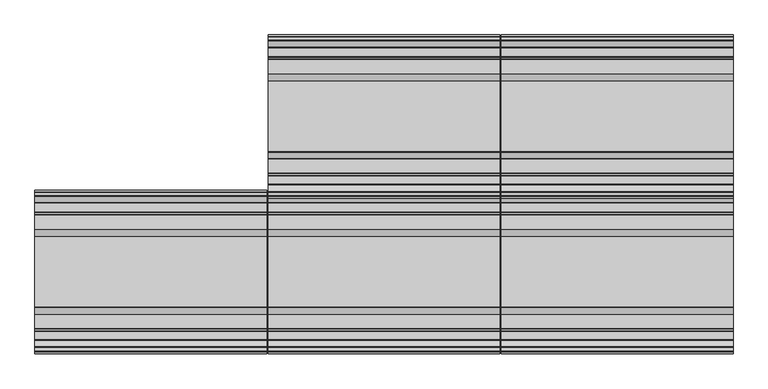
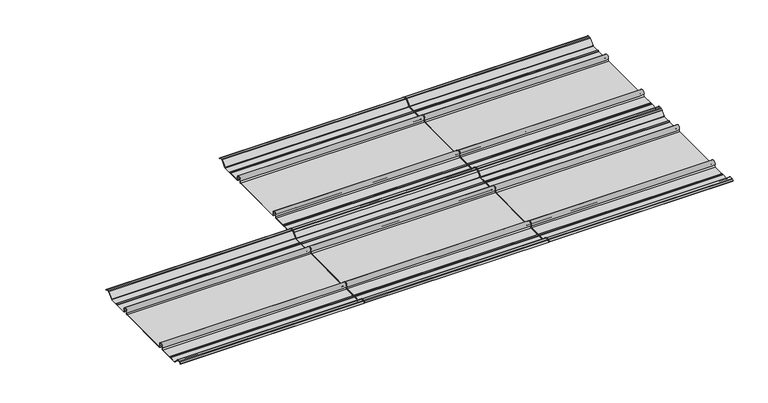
"""IFC4 building model written with IfcOpenShell, lengths in millimetres: proxy geometry, Xlath : Xlath."""

from ifc_helpers import new_model, si_unit, point, frame, frame_2d, origin, place, context, project, spatial, polyline, circle_curve, trimmed, segment, composite_curve, outline, extrude, source, transform, mapped, element, save


def generic_models_ea562b08(model_context):
    return source(origin(), model_context, "Body", "SweptSolid", [
        extrude(outline(composite_curve([segment(polyline([(-2036.021536, 17.692427), (-2032.0, 13.8209287), (-2032.5628134, 13.2581153), (-2036.8173305, 17.3539026)]), True, "CONTINUOUS"), segment(trimmed(circle_curve(frame_2d((-2038.6934261, 15.4051)), 2.7051), [point((-2036.8173305, 17.3539026))], [point((-2038.6934261, 18.1102))], True, "CARTESIAN"), True, "CONTINUOUS"), segment(polyline([(-2038.6934261, 18.1102), (-2045.8817457, 18.1102)]), True, "CONTINUOUS"), segment(trimmed(circle_curve(frame_2d((-2045.8817457, 15.4051)), 2.7051), [point((-2045.8817457, 18.1102))], [point((-2047.8059623, 17.3064039))], True, "CARTESIAN"), True, "CONTINUOUS"), segment(polyline([(-2047.8059623, 17.3064039), (-2063.9741011, 0.9434226)]), True, "CONTINUOUS"), segment(trimmed(circle_curve(frame_2d((-2066.2325712, 3.175)), 3.175), [point((-2063.9741011, 0.9434226))], [point((-2066.2325712, 0.0))], False, "CARTESIAN"), True, "CONTINUOUS"), segment(polyline([(-2066.2325712, 0.0), (-2089.3486405, 0.0)]), True, "CONTINUOUS"), segment(trimmed(circle_curve(frame_2d((-2089.3486405, 3.175)), 3.175), [point((-2089.3486405, 0.0))], [point((-2091.3419174, 0.70367))], False, "CARTESIAN"), True, "CONTINUOUS"), segment(trimmed(circle_curve(frame_2d((-2093.3351943, -1.7676601)), 3.175), [point((-2091.3419174, 0.70367))], [point((-2095.3284712, 0.70367))], True, "CARTESIAN"), True, "CONTINUOUS"), segment(trimmed(circle_curve(frame_2d((-2097.3217481, 3.175)), 3.175), [point((-2095.3284712, 0.70367))], [point((-2097.3217481, 0.0))], False, "CARTESIAN"), True, "CONTINUOUS"), segment(polyline([(-2097.3217481, 0.0), (-2134.59972, 0.0)]), True, "CONTINUOUS"), segment(trimmed(circle_curve(frame_2d((-2134.59972, 3.3362305)), 3.3362305), [point((-2134.59972, 0.0))], [point((-2137.2911698, 5.3076593))], False, "CARTESIAN"), True, "CONTINUOUS"), segment(trimmed(circle_curve(frame_2d((-2143.8031627, 10.0775533)), 8.0720469), [point((-2137.2911698, 5.3076593))], [point((-2150.3151555, 5.3076593))], True, "CARTESIAN"), True, "CONTINUOUS"), segment(trimmed(circle_curve(frame_2d((-2153.0066054, 3.3362305)), 3.3362305), [point((-2150.3151555, 5.3076593))], [point((-2153.0066054, 0.0))], False, "CARTESIAN"), True, "CONTINUOUS"), segment(polyline([(-2153.0066054, 0.0), (-2338.0308946, 0.0)]), True, "CONTINUOUS"), segment(trimmed(circle_curve(frame_2d((-2338.0308946, 3.3362305)), 3.3362305), [point((-2338.0308946, 0.0))], [point((-2340.7223445, 5.3076593))], False, "CARTESIAN"), True, "CONTINUOUS"), segment(trimmed(circle_curve(frame_2d((-2347.2343373, 10.0775533)), 8.0720469), [point((-2340.7223445, 5.3076593))], [point((-2353.7463302, 5.3076593))], True, "CARTESIAN"), True, "CONTINUOUS"), segment(trimmed(circle_curve(frame_2d((-2356.43778, 3.3362305)), 3.3362305), [point((-2353.7463302, 5.3076593))], [point((-2356.43778, 0.0))], False, "CARTESIAN"), True, "CONTINUOUS"), segment(polyline([(-2356.43778, 0.0), (-2393.7157519, 0.0)]), True, "CONTINUOUS"), segment(trimmed(circle_curve(frame_2d((-2393.7157519, 3.175)), 3.175), [point((-2393.7157519, 0.0))], [point((-2395.7090288, 0.70367))], False, "CARTESIAN"), True, "CONTINUOUS"), segment(trimmed(circle_curve(frame_2d((-2397.7023057, -1.7676601)), 3.175), [point((-2395.7090288, 0.70367))], [point((-2399.6955826, 0.70367))], True, "CARTESIAN"), True, "CONTINUOUS"), segment(trimmed(circle_curve(frame_2d((-2401.6888595, 3.175)), 3.175), [point((-2399.6955826, 0.70367))], [point((-2401.6888595, 0.0))], False, "CARTESIAN"), True, "CONTINUOUS"), segment(polyline([(-2401.6888595, 0.0), (-2423.0183557, 0.0)]), True, "CONTINUOUS"), segment(trimmed(circle_curve(frame_2d((-2423.0183557, 3.175)), 3.175), [point((-2423.0183557, 0.0))], [point((-2425.2768259, 0.9434226))], False, "CARTESIAN"), True, "CONTINUOUS"), segment(polyline([(-2425.2768259, 0.9434226), (-2441.9092693, 17.7763039)]), True, "CONTINUOUS"), segment(trimmed(circle_curve(frame_2d((-2443.8334859, 15.875)), 2.7051), [point((-2441.9092693, 17.7763039))], [point((-2443.8334859, 18.5801))], True, "CARTESIAN"), True, "CONTINUOUS"), segment(polyline([(-2443.8334859, 18.5801), (-2452.3440739, 18.5801)]), True, "CONTINUOUS"), segment(trimmed(circle_curve(frame_2d((-2452.3440739, 15.875)), 2.7051), [point((-2452.3440739, 18.5801))], [point((-2454.2201695, 17.8238026))], True, "CARTESIAN"), True, "CONTINUOUS"), segment(polyline([(-2454.2201695, 17.8238026), (-2458.4855845, 13.717524), (-2459.0483979, 14.2803374), (-2455.015964, 18.162327)]), True, "CONTINUOUS"), segment(trimmed(circle_curve(frame_2d((-2452.8139739, 15.875)), 3.175), [point((-2455.015964, 18.162327))], [point((-2452.8139739, 19.05))], False, "CARTESIAN"), True, "CONTINUOUS"), segment(polyline([(-2452.8139739, 19.05), (-2443.8334859, 19.05)]), True, "CONTINUOUS"), segment(trimmed(circle_curve(frame_2d((-2443.8334859, 15.875)), 3.175), [point((-2443.8334859, 19.05))], [point((-2441.5750157, 18.1065774))], False, "CARTESIAN"), True, "CONTINUOUS"), segment(polyline([(-2441.5750157, 18.1065774), (-2424.9425723, 1.2736961)]), True, "CONTINUOUS"), segment(trimmed(circle_curve(frame_2d((-2423.0183557, 3.175)), 2.7051), [point((-2424.9425723, 1.2736961))], [point((-2423.0183557, 0.4699))], True, "CARTESIAN"), True, "CONTINUOUS"), segment(polyline([(-2423.0183557, 0.4699), (-2401.8514296, 0.4699)]), True, "CONTINUOUS"), segment(trimmed(circle_curve(frame_2d((-2401.8514296, 3.6449)), 3.175), [point((-2401.8514296, 0.4699))], [point((-2399.9198077, 1.1250862))], True, "CARTESIAN"), True, "CONTINUOUS"), segment(trimmed(circle_curve(frame_2d((-2397.7023057, -1.7676601)), 3.6449), [point((-2399.9198077, 1.1250862))], [point((-2395.4848037, 1.1250862))], False, "CARTESIAN"), True, "CONTINUOUS"), segment(trimmed(circle_curve(frame_2d((-2393.5531818, 3.6449)), 3.175), [point((-2395.4848037, 1.1250862))], [point((-2393.5531818, 0.4699))], True, "CARTESIAN"), True, "CONTINUOUS"), segment(polyline([(-2393.5531818, 0.4699), (-2356.43778, 0.4699)]), True, "CONTINUOUS"), segment(trimmed(circle_curve(frame_2d((-2356.43778, 3.3362305)), 2.8663305), [point((-2356.43778, 0.4699))], [point((-2354.1254144, 5.0299883))], True, "CARTESIAN"), True, "CONTINUOUS"), segment(trimmed(circle_curve(frame_2d((-2347.2343373, 10.0775533)), 8.5419469), [point((-2354.1254144, 5.0299883))], [point((-2340.3432603, 5.0299883))], False, "CARTESIAN"), True, "CONTINUOUS"), segment(trimmed(circle_curve(frame_2d((-2338.0308946, 3.3362305)), 2.8663305), [point((-2340.3432603, 5.0299883))], [point((-2338.0308946, 0.4699))], True, "CARTESIAN"), True, "CONTINUOUS"), segment(polyline([(-2338.0308946, 0.4699), (-2153.0066054, 0.4699)]), True, "CONTINUOUS"), segment(trimmed(circle_curve(frame_2d((-2153.0066054, 3.3362305)), 2.8663305), [point((-2153.0066054, 0.4699))], [point((-2150.6942397, 5.0299883))], True, "CARTESIAN"), True, "CONTINUOUS"), segment(trimmed(circle_curve(frame_2d((-2143.8031627, 10.0775533)), 8.5419469), [point((-2150.6942397, 5.0299883))], [point((-2136.9120856, 5.0299883))], False, "CARTESIAN"), True, "CONTINUOUS"), segment(trimmed(circle_curve(frame_2d((-2134.59972, 3.3362305)), 2.8663305), [point((-2136.9120856, 5.0299883))], [point((-2134.59972, 0.4699))], True, "CARTESIAN"), True, "CONTINUOUS"), segment(polyline([(-2134.59972, 0.4699), (-2097.4843182, 0.4699)]), True, "CONTINUOUS"), segment(trimmed(circle_curve(frame_2d((-2097.4843182, 3.6449)), 3.175), [point((-2097.4843182, 0.4699))], [point((-2095.5526963, 1.1250862))], True, "CARTESIAN"), True, "CONTINUOUS"), segment(trimmed(circle_curve(frame_2d((-2093.3351943, -1.7676601)), 3.6449), [point((-2095.5526963, 1.1250862))], [point((-2091.1176923, 1.1250862))], False, "CARTESIAN"), True, "CONTINUOUS"), segment(trimmed(circle_curve(frame_2d((-2089.1860704, 3.6449)), 3.175), [point((-2091.1176923, 1.1250862))], [point((-2089.1860704, 0.4699))], True, "CARTESIAN"), True, "CONTINUOUS"), segment(polyline([(-2089.1860704, 0.4699), (-2066.2325712, 0.4699)]), True, "CONTINUOUS"), segment(trimmed(circle_curve(frame_2d((-2066.2325712, 3.175)), 2.7051), [point((-2066.2325712, 0.4699))], [point((-2064.3083547, 1.2736961))], True, "CARTESIAN"), True, "CONTINUOUS"), segment(polyline([(-2064.3083547, 1.2736961), (-2048.1402159, 17.6366774)]), True, "CONTINUOUS"), segment(trimmed(circle_curve(frame_2d((-2045.8817457, 15.4051)), 3.175), [point((-2048.1402159, 17.6366774))], [point((-2045.8817457, 18.5801))], False, "CARTESIAN"), True, "CONTINUOUS"), segment(polyline([(-2045.8817457, 18.5801), (-2038.2235261, 18.5801)]), True, "CONTINUOUS"), segment(trimmed(circle_curve(frame_2d((-2038.2235261, 15.4051)), 3.175), [point((-2038.2235261, 18.5801))], [point((-2036.021536, 17.692427))], False, "CARTESIAN"), True, "CONTINUOUS")], self_intersect=False)), frame((1219.2, 0.0, 0.0), z_axis=(1.0, 0.0, 0.0), x_axis=(0.0, 1.0, 0.0)), (0.0, 0.0, 1.0), 606.425),
        extrude(outline(composite_curve([segment(polyline([(-2036.021536, 17.692427), (-2032.0, 13.8209287), (-2032.5628134, 13.2581153), (-2036.8173305, 17.3539026)]), True, "CONTINUOUS"), segment(trimmed(circle_curve(frame_2d((-2038.6934261, 15.4051)), 2.7051), [point((-2036.8173305, 17.3539026))], [point((-2038.6934261, 18.1102))], True, "CARTESIAN"), True, "CONTINUOUS"), segment(polyline([(-2038.6934261, 18.1102), (-2045.8817457, 18.1102)]), True, "CONTINUOUS"), segment(trimmed(circle_curve(frame_2d((-2045.8817457, 15.4051)), 2.7051), [point((-2045.8817457, 18.1102))], [point((-2047.8059623, 17.3064039))], True, "CARTESIAN"), True, "CONTINUOUS"), segment(polyline([(-2047.8059623, 17.3064039), (-2063.9741011, 0.9434226)]), True, "CONTINUOUS"), segment(trimmed(circle_curve(frame_2d((-2066.2325712, 3.175)), 3.175), [point((-2063.9741011, 0.9434226))], [point((-2066.2325712, 0.0))], False, "CARTESIAN"), True, "CONTINUOUS"), segment(polyline([(-2066.2325712, 0.0), (-2089.3486405, 0.0)]), True, "CONTINUOUS"), segment(trimmed(circle_curve(frame_2d((-2089.3486405, 3.175)), 3.175), [point((-2089.3486405, 0.0))], [point((-2091.3419174, 0.70367))], False, "CARTESIAN"), True, "CONTINUOUS"), segment(trimmed(circle_curve(frame_2d((-2093.3351943, -1.7676601)), 3.175), [point((-2091.3419174, 0.70367))], [point((-2095.3284712, 0.70367))], True, "CARTESIAN"), True, "CONTINUOUS"), segment(trimmed(circle_curve(frame_2d((-2097.3217481, 3.175)), 3.175), [point((-2095.3284712, 0.70367))], [point((-2097.3217481, 0.0))], False, "CARTESIAN"), True, "CONTINUOUS"), segment(polyline([(-2097.3217481, 0.0), (-2134.59972, 0.0)]), True, "CONTINUOUS"), segment(trimmed(circle_curve(frame_2d((-2134.59972, 3.3362305)), 3.3362305), [point((-2134.59972, 0.0))], [point((-2137.2911698, 5.3076593))], False, "CARTESIAN"), True, "CONTINUOUS"), segment(trimmed(circle_curve(frame_2d((-2143.8031627, 10.0775533)), 8.0720469), [point((-2137.2911698, 5.3076593))], [point((-2150.3151555, 5.3076593))], True, "CARTESIAN"), True, "CONTINUOUS"), segment(trimmed(circle_curve(frame_2d((-2153.0066054, 3.3362305)), 3.3362305), [point((-2150.3151555, 5.3076593))], [point((-2153.0066054, 0.0))], False, "CARTESIAN"), True, "CONTINUOUS"), segment(polyline([(-2153.0066054, 0.0), (-2338.0308946, 0.0)]), True, "CONTINUOUS"), segment(trimmed(circle_curve(frame_2d((-2338.0308946, 3.3362305)), 3.3362305), [point((-2338.0308946, 0.0))], [point((-2340.7223445, 5.3076593))], False, "CARTESIAN"), True, "CONTINUOUS"), segment(trimmed(circle_curve(frame_2d((-2347.2343373, 10.0775533)), 8.0720469), [point((-2340.7223445, 5.3076593))], [point((-2353.7463302, 5.3076593))], True, "CARTESIAN"), True, "CONTINUOUS"), segment(trimmed(circle_curve(frame_2d((-2356.43778, 3.3362305)), 3.3362305), [point((-2353.7463302, 5.3076593))], [point((-2356.43778, 0.0))], False, "CARTESIAN"), True, "CONTINUOUS"), segment(polyline([(-2356.43778, 0.0), (-2393.7157519, 0.0)]), True, "CONTINUOUS"), segment(trimmed(circle_curve(frame_2d((-2393.7157519, 3.175)), 3.175), [point((-2393.7157519, 0.0))], [point((-2395.7090288, 0.70367))], False, "CARTESIAN"), True, "CONTINUOUS"), segment(trimmed(circle_curve(frame_2d((-2397.7023057, -1.7676601)), 3.175), [point((-2395.7090288, 0.70367))], [point((-2399.6955826, 0.70367))], True, "CARTESIAN"), True, "CONTINUOUS"), segment(trimmed(circle_curve(frame_2d((-2401.6888595, 3.175)), 3.175), [point((-2399.6955826, 0.70367))], [point((-2401.6888595, 0.0))], False, "CARTESIAN"), True, "CONTINUOUS"), segment(polyline([(-2401.6888595, 0.0), (-2423.0183557, 0.0)]), True, "CONTINUOUS"), segment(trimmed(circle_curve(frame_2d((-2423.0183557, 3.175)), 3.175), [point((-2423.0183557, 0.0))], [point((-2425.2768259, 0.9434226))], False, "CARTESIAN"), True, "CONTINUOUS"), segment(polyline([(-2425.2768259, 0.9434226), (-2441.9092693, 17.7763039)]), True, "CONTINUOUS"), segment(trimmed(circle_curve(frame_2d((-2443.8334859, 15.875)), 2.7051), [point((-2441.9092693, 17.7763039))], [point((-2443.8334859, 18.5801))], True, "CARTESIAN"), True, "CONTINUOUS"), segment(polyline([(-2443.8334859, 18.5801), (-2452.3440739, 18.5801)]), True, "CONTINUOUS"), segment(trimmed(circle_curve(frame_2d((-2452.3440739, 15.875)), 2.7051), [point((-2452.3440739, 18.5801))], [point((-2454.2201695, 17.8238026))], True, "CARTESIAN"), True, "CONTINUOUS"), segment(polyline([(-2454.2201695, 17.8238026), (-2458.4855845, 13.717524), (-2459.0483979, 14.2803374), (-2455.015964, 18.162327)]), True, "CONTINUOUS"), segment(trimmed(circle_curve(frame_2d((-2452.8139739, 15.875)), 3.175), [point((-2455.015964, 18.162327))], [point((-2452.8139739, 19.05))], False, "CARTESIAN"), True, "CONTINUOUS"), segment(polyline([(-2452.8139739, 19.05), (-2443.8334859, 19.05)]), True, "CONTINUOUS"), segment(trimmed(circle_curve(frame_2d((-2443.8334859, 15.875)), 3.175), [point((-2443.8334859, 19.05))], [point((-2441.5750157, 18.1065774))], False, "CARTESIAN"), True, "CONTINUOUS"), segment(polyline([(-2441.5750157, 18.1065774), (-2424.9425723, 1.2736961)]), True, "CONTINUOUS"), segment(trimmed(circle_curve(frame_2d((-2423.0183557, 3.175)), 2.7051), [point((-2424.9425723, 1.2736961))], [point((-2423.0183557, 0.4699))], True, "CARTESIAN"), True, "CONTINUOUS"), segment(polyline([(-2423.0183557, 0.4699), (-2401.8514296, 0.4699)]), True, "CONTINUOUS"), segment(trimmed(circle_curve(frame_2d((-2401.8514296, 3.6449)), 3.175), [point((-2401.8514296, 0.4699))], [point((-2399.9198077, 1.1250862))], True, "CARTESIAN"), True, "CONTINUOUS"), segment(trimmed(circle_curve(frame_2d((-2397.7023057, -1.7676601)), 3.6449), [point((-2399.9198077, 1.1250862))], [point((-2395.4848037, 1.1250862))], False, "CARTESIAN"), True, "CONTINUOUS"), segment(trimmed(circle_curve(frame_2d((-2393.5531818, 3.6449)), 3.175), [point((-2395.4848037, 1.1250862))], [point((-2393.5531818, 0.4699))], True, "CARTESIAN"), True, "CONTINUOUS"), segment(polyline([(-2393.5531818, 0.4699), (-2356.43778, 0.4699)]), True, "CONTINUOUS"), segment(trimmed(circle_curve(frame_2d((-2356.43778, 3.3362305)), 2.8663305), [point((-2356.43778, 0.4699))], [point((-2354.1254144, 5.0299883))], True, "CARTESIAN"), True, "CONTINUOUS"), segment(trimmed(circle_curve(frame_2d((-2347.2343373, 10.0775533)), 8.5419469), [point((-2354.1254144, 5.0299883))], [point((-2340.3432603, 5.0299883))], False, "CARTESIAN"), True, "CONTINUOUS"), segment(trimmed(circle_curve(frame_2d((-2338.0308946, 3.3362305)), 2.8663305), [point((-2340.3432603, 5.0299883))], [point((-2338.0308946, 0.4699))], True, "CARTESIAN"), True, "CONTINUOUS"), segment(polyline([(-2338.0308946, 0.4699), (-2153.0066054, 0.4699)]), True, "CONTINUOUS"), segment(trimmed(circle_curve(frame_2d((-2153.0066054, 3.3362305)), 2.8663305), [point((-2153.0066054, 0.4699))], [point((-2150.6942397, 5.0299883))], True, "CARTESIAN"), True, "CONTINUOUS"), segment(trimmed(circle_curve(frame_2d((-2143.8031627, 10.0775533)), 8.5419469), [point((-2150.6942397, 5.0299883))], [point((-2136.9120856, 5.0299883))], False, "CARTESIAN"), True, "CONTINUOUS"), segment(trimmed(circle_curve(frame_2d((-2134.59972, 3.3362305)), 2.8663305), [point((-2136.9120856, 5.0299883))], [point((-2134.59972, 0.4699))], True, "CARTESIAN"), True, "CONTINUOUS"), segment(polyline([(-2134.59972, 0.4699), (-2097.4843182, 0.4699)]), True, "CONTINUOUS"), segment(trimmed(circle_curve(frame_2d((-2097.4843182, 3.6449)), 3.175), [point((-2097.4843182, 0.4699))], [point((-2095.5526963, 1.1250862))], True, "CARTESIAN"), True, "CONTINUOUS"), segment(trimmed(circle_curve(frame_2d((-2093.3351943, -1.7676601)), 3.6449), [point((-2095.5526963, 1.1250862))], [point((-2091.1176923, 1.1250862))], False, "CARTESIAN"), True, "CONTINUOUS"), segment(trimmed(circle_curve(frame_2d((-2089.1860704, 3.6449)), 3.175), [point((-2091.1176923, 1.1250862))], [point((-2089.1860704, 0.4699))], True, "CARTESIAN"), True, "CONTINUOUS"), segment(polyline([(-2089.1860704, 0.4699), (-2066.2325712, 0.4699)]), True, "CONTINUOUS"), segment(trimmed(circle_curve(frame_2d((-2066.2325712, 3.175)), 2.7051), [point((-2066.2325712, 0.4699))], [point((-2064.3083547, 1.2736961))], True, "CARTESIAN"), True, "CONTINUOUS"), segment(polyline([(-2064.3083547, 1.2736961), (-2048.1402159, 17.6366774)]), True, "CONTINUOUS"), segment(trimmed(circle_curve(frame_2d((-2045.8817457, 15.4051)), 3.175), [point((-2048.1402159, 17.6366774))], [point((-2045.8817457, 18.5801))], False, "CARTESIAN"), True, "CONTINUOUS"), segment(polyline([(-2045.8817457, 18.5801), (-2038.2235261, 18.5801)]), True, "CONTINUOUS"), segment(trimmed(circle_curve(frame_2d((-2038.2235261, 15.4051)), 3.175), [point((-2038.2235261, 18.5801))], [point((-2036.021536, 17.692427))], False, "CARTESIAN"), True, "CONTINUOUS")], self_intersect=False)), frame((609.6, 0.0, 0.0), z_axis=(1.0, 0.0, 0.0), x_axis=(0.0, 1.0, 0.0)), (0.0, 0.0, 1.0), 606.425),
        extrude(outline(composite_curve([segment(polyline([(-2036.021536, 17.692427), (-2032.0, 13.8209287), (-2032.5628134, 13.2581153), (-2036.8173305, 17.3539026)]), True, "CONTINUOUS"), segment(trimmed(circle_curve(frame_2d((-2038.6934261, 15.4051)), 2.7051), [point((-2036.8173305, 17.3539026))], [point((-2038.6934261, 18.1102))], True, "CARTESIAN"), True, "CONTINUOUS"), segment(polyline([(-2038.6934261, 18.1102), (-2045.8817457, 18.1102)]), True, "CONTINUOUS"), segment(trimmed(circle_curve(frame_2d((-2045.8817457, 15.4051)), 2.7051), [point((-2045.8817457, 18.1102))], [point((-2047.8059623, 17.3064039))], True, "CARTESIAN"), True, "CONTINUOUS"), segment(polyline([(-2047.8059623, 17.3064039), (-2063.9741011, 0.9434226)]), True, "CONTINUOUS"), segment(trimmed(circle_curve(frame_2d((-2066.2325712, 3.175)), 3.175), [point((-2063.9741011, 0.9434226))], [point((-2066.2325712, 0.0))], False, "CARTESIAN"), True, "CONTINUOUS"), segment(polyline([(-2066.2325712, 0.0), (-2089.3486405, 0.0)]), True, "CONTINUOUS"), segment(trimmed(circle_curve(frame_2d((-2089.3486405, 3.175)), 3.175), [point((-2089.3486405, 0.0))], [point((-2091.3419174, 0.70367))], False, "CARTESIAN"), True, "CONTINUOUS"), segment(trimmed(circle_curve(frame_2d((-2093.3351943, -1.7676601)), 3.175), [point((-2091.3419174, 0.70367))], [point((-2095.3284712, 0.70367))], True, "CARTESIAN"), True, "CONTINUOUS"), segment(trimmed(circle_curve(frame_2d((-2097.3217481, 3.175)), 3.175), [point((-2095.3284712, 0.70367))], [point((-2097.3217481, 0.0))], False, "CARTESIAN"), True, "CONTINUOUS"), segment(polyline([(-2097.3217481, 0.0), (-2134.59972, 0.0)]), True, "CONTINUOUS"), segment(trimmed(circle_curve(frame_2d((-2134.59972, 3.3362305)), 3.3362305), [point((-2134.59972, 0.0))], [point((-2137.2911698, 5.3076593))], False, "CARTESIAN"), True, "CONTINUOUS"), segment(trimmed(circle_curve(frame_2d((-2143.8031627, 10.0775533)), 8.0720469), [point((-2137.2911698, 5.3076593))], [point((-2150.3151555, 5.3076593))], True, "CARTESIAN"), True, "CONTINUOUS"), segment(trimmed(circle_curve(frame_2d((-2153.0066054, 3.3362305)), 3.3362305), [point((-2150.3151555, 5.3076593))], [point((-2153.0066054, 0.0))], False, "CARTESIAN"), True, "CONTINUOUS"), segment(polyline([(-2153.0066054, 0.0), (-2338.0308946, 0.0)]), True, "CONTINUOUS"), segment(trimmed(circle_curve(frame_2d((-2338.0308946, 3.3362305)), 3.3362305), [point((-2338.0308946, 0.0))], [point((-2340.7223445, 5.3076593))], False, "CARTESIAN"), True, "CONTINUOUS"), segment(trimmed(circle_curve(frame_2d((-2347.2343373, 10.0775533)), 8.0720469), [point((-2340.7223445, 5.3076593))], [point((-2353.7463302, 5.3076593))], True, "CARTESIAN"), True, "CONTINUOUS"), segment(trimmed(circle_curve(frame_2d((-2356.43778, 3.3362305)), 3.3362305), [point((-2353.7463302, 5.3076593))], [point((-2356.43778, 0.0))], False, "CARTESIAN"), True, "CONTINUOUS"), segment(polyline([(-2356.43778, 0.0), (-2393.7157519, 0.0)]), True, "CONTINUOUS"), segment(trimmed(circle_curve(frame_2d((-2393.7157519, 3.175)), 3.175), [point((-2393.7157519, 0.0))], [point((-2395.7090288, 0.70367))], False, "CARTESIAN"), True, "CONTINUOUS"), segment(trimmed(circle_curve(frame_2d((-2397.7023057, -1.7676601)), 3.175), [point((-2395.7090288, 0.70367))], [point((-2399.6955826, 0.70367))], True, "CARTESIAN"), True, "CONTINUOUS"), segment(trimmed(circle_curve(frame_2d((-2401.6888595, 3.175)), 3.175), [point((-2399.6955826, 0.70367))], [point((-2401.6888595, 0.0))], False, "CARTESIAN"), True, "CONTINUOUS"), segment(polyline([(-2401.6888595, 0.0), (-2423.0183557, 0.0)]), True, "CONTINUOUS"), segment(trimmed(circle_curve(frame_2d((-2423.0183557, 3.175)), 3.175), [point((-2423.0183557, 0.0))], [point((-2425.2768259, 0.9434226))], False, "CARTESIAN"), True, "CONTINUOUS"), segment(polyline([(-2425.2768259, 0.9434226), (-2441.9092693, 17.7763039)]), True, "CONTINUOUS"), segment(trimmed(circle_curve(frame_2d((-2443.8334859, 15.875)), 2.7051), [point((-2441.9092693, 17.7763039))], [point((-2443.8334859, 18.5801))], True, "CARTESIAN"), True, "CONTINUOUS"), segment(polyline([(-2443.8334859, 18.5801), (-2452.3440739, 18.5801)]), True, "CONTINUOUS"), segment(trimmed(circle_curve(frame_2d((-2452.3440739, 15.875)), 2.7051), [point((-2452.3440739, 18.5801))], [point((-2454.2201695, 17.8238026))], True, "CARTESIAN"), True, "CONTINUOUS"), segment(polyline([(-2454.2201695, 17.8238026), (-2458.4855845, 13.717524), (-2459.0483979, 14.2803374), (-2455.015964, 18.162327)]), True, "CONTINUOUS"), segment(trimmed(circle_curve(frame_2d((-2452.8139739, 15.875)), 3.175), [point((-2455.015964, 18.162327))], [point((-2452.8139739, 19.05))], False, "CARTESIAN"), True, "CONTINUOUS"), segment(polyline([(-2452.8139739, 19.05), (-2443.8334859, 19.05)]), True, "CONTINUOUS"), segment(trimmed(circle_curve(frame_2d((-2443.8334859, 15.875)), 3.175), [point((-2443.8334859, 19.05))], [point((-2441.5750157, 18.1065774))], False, "CARTESIAN"), True, "CONTINUOUS"), segment(polyline([(-2441.5750157, 18.1065774), (-2424.9425723, 1.2736961)]), True, "CONTINUOUS"), segment(trimmed(circle_curve(frame_2d((-2423.0183557, 3.175)), 2.7051), [point((-2424.9425723, 1.2736961))], [point((-2423.0183557, 0.4699))], True, "CARTESIAN"), True, "CONTINUOUS"), segment(polyline([(-2423.0183557, 0.4699), (-2401.8514296, 0.4699)]), True, "CONTINUOUS"), segment(trimmed(circle_curve(frame_2d((-2401.8514296, 3.6449)), 3.175), [point((-2401.8514296, 0.4699))], [point((-2399.9198077, 1.1250862))], True, "CARTESIAN"), True, "CONTINUOUS"), segment(trimmed(circle_curve(frame_2d((-2397.7023057, -1.7676601)), 3.6449), [point((-2399.9198077, 1.1250862))], [point((-2395.4848037, 1.1250862))], False, "CARTESIAN"), True, "CONTINUOUS"), segment(trimmed(circle_curve(frame_2d((-2393.5531818, 3.6449)), 3.175), [point((-2395.4848037, 1.1250862))], [point((-2393.5531818, 0.4699))], True, "CARTESIAN"), True, "CONTINUOUS"), segment(polyline([(-2393.5531818, 0.4699), (-2356.43778, 0.4699)]), True, "CONTINUOUS"), segment(trimmed(circle_curve(frame_2d((-2356.43778, 3.3362305)), 2.8663305), [point((-2356.43778, 0.4699))], [point((-2354.1254144, 5.0299883))], True, "CARTESIAN"), True, "CONTINUOUS"), segment(trimmed(circle_curve(frame_2d((-2347.2343373, 10.0775533)), 8.5419469), [point((-2354.1254144, 5.0299883))], [point((-2340.3432603, 5.0299883))], False, "CARTESIAN"), True, "CONTINUOUS"), segment(trimmed(circle_curve(frame_2d((-2338.0308946, 3.3362305)), 2.8663305), [point((-2340.3432603, 5.0299883))], [point((-2338.0308946, 0.4699))], True, "CARTESIAN"), True, "CONTINUOUS"), segment(polyline([(-2338.0308946, 0.4699), (-2153.0066054, 0.4699)]), True, "CONTINUOUS"), segment(trimmed(circle_curve(frame_2d((-2153.0066054, 3.3362305)), 2.8663305), [point((-2153.0066054, 0.4699))], [point((-2150.6942397, 5.0299883))], True, "CARTESIAN"), True, "CONTINUOUS"), segment(trimmed(circle_curve(frame_2d((-2143.8031627, 10.0775533)), 8.5419469), [point((-2150.6942397, 5.0299883))], [point((-2136.9120856, 5.0299883))], False, "CARTESIAN"), True, "CONTINUOUS"), segment(trimmed(circle_curve(frame_2d((-2134.59972, 3.3362305)), 2.8663305), [point((-2136.9120856, 5.0299883))], [point((-2134.59972, 0.4699))], True, "CARTESIAN"), True, "CONTINUOUS"), segment(polyline([(-2134.59972, 0.4699), (-2097.4843182, 0.4699)]), True, "CONTINUOUS"), segment(trimmed(circle_curve(frame_2d((-2097.4843182, 3.6449)), 3.175), [point((-2097.4843182, 0.4699))], [point((-2095.5526963, 1.1250862))], True, "CARTESIAN"), True, "CONTINUOUS"), segment(trimmed(circle_curve(frame_2d((-2093.3351943, -1.7676601)), 3.6449), [point((-2095.5526963, 1.1250862))], [point((-2091.1176923, 1.1250862))], False, "CARTESIAN"), True, "CONTINUOUS"), segment(trimmed(circle_curve(frame_2d((-2089.1860704, 3.6449)), 3.175), [point((-2091.1176923, 1.1250862))], [point((-2089.1860704, 0.4699))], True, "CARTESIAN"), True, "CONTINUOUS"), segment(polyline([(-2089.1860704, 0.4699), (-2066.2325712, 0.4699)]), True, "CONTINUOUS"), segment(trimmed(circle_curve(frame_2d((-2066.2325712, 3.175)), 2.7051), [point((-2066.2325712, 0.4699))], [point((-2064.3083547, 1.2736961))], True, "CARTESIAN"), True, "CONTINUOUS"), segment(polyline([(-2064.3083547, 1.2736961), (-2048.1402159, 17.6366774)]), True, "CONTINUOUS"), segment(trimmed(circle_curve(frame_2d((-2045.8817457, 15.4051)), 3.175), [point((-2048.1402159, 17.6366774))], [point((-2045.8817457, 18.5801))], False, "CARTESIAN"), True, "CONTINUOUS"), segment(polyline([(-2045.8817457, 18.5801), (-2038.2235261, 18.5801)]), True, "CONTINUOUS"), segment(trimmed(circle_curve(frame_2d((-2038.2235261, 15.4051)), 3.175), [point((-2038.2235261, 18.5801))], [point((-2036.021536, 17.692427))], False, "CARTESIAN"), True, "CONTINUOUS")], self_intersect=False)), frame((0.0, 0.0, 0.0), z_axis=(1.0, 0.0, 0.0), x_axis=(0.0, 1.0, 0.0)), (0.0, 0.0, 1.0), 606.425),
        extrude(outline(composite_curve([segment(polyline([(-1629.621536, 17.692427), (-1625.6, 13.8209287), (-1626.1628134, 13.2581153), (-1630.4173305, 17.3539026)]), True, "CONTINUOUS"), segment(trimmed(circle_curve(frame_2d((-1632.2934261, 15.4051)), 2.7051), [point((-1630.4173305, 17.3539026))], [point((-1632.2934261, 18.1102))], True, "CARTESIAN"), True, "CONTINUOUS"), segment(polyline([(-1632.2934261, 18.1102), (-1639.4817457, 18.1102)]), True, "CONTINUOUS"), segment(trimmed(circle_curve(frame_2d((-1639.4817457, 15.4051)), 2.7051), [point((-1639.4817457, 18.1102))], [point((-1641.4059623, 17.3064039))], True, "CARTESIAN"), True, "CONTINUOUS"), segment(polyline([(-1641.4059623, 17.3064039), (-1657.5741011, 0.9434226)]), True, "CONTINUOUS"), segment(trimmed(circle_curve(frame_2d((-1659.8325712, 3.175)), 3.175), [point((-1657.5741011, 0.9434226))], [point((-1659.8325712, 0.0))], False, "CARTESIAN"), True, "CONTINUOUS"), segment(polyline([(-1659.8325712, 0.0), (-1682.9486405, 0.0)]), True, "CONTINUOUS"), segment(trimmed(circle_curve(frame_2d((-1682.9486405, 3.175)), 3.175), [point((-1682.9486405, 0.0))], [point((-1684.9419174, 0.70367))], False, "CARTESIAN"), True, "CONTINUOUS"), segment(trimmed(circle_curve(frame_2d((-1686.9351943, -1.7676601)), 3.175), [point((-1684.9419174, 0.70367))], [point((-1688.9284712, 0.70367))], True, "CARTESIAN"), True, "CONTINUOUS"), segment(trimmed(circle_curve(frame_2d((-1690.9217481, 3.175)), 3.175), [point((-1688.9284712, 0.70367))], [point((-1690.9217481, 0.0))], False, "CARTESIAN"), True, "CONTINUOUS"), segment(polyline([(-1690.9217481, 0.0), (-1728.19972, 0.0)]), True, "CONTINUOUS"), segment(trimmed(circle_curve(frame_2d((-1728.19972, 3.3362305)), 3.3362305), [point((-1728.19972, 0.0))], [point((-1730.8911698, 5.3076593))], False, "CARTESIAN"), True, "CONTINUOUS"), segment(trimmed(circle_curve(frame_2d((-1737.4031627, 10.0775533)), 8.0720469), [point((-1730.8911698, 5.3076593))], [point((-1743.9151555, 5.3076593))], True, "CARTESIAN"), True, "CONTINUOUS"), segment(trimmed(circle_curve(frame_2d((-1746.6066054, 3.3362305)), 3.3362305), [point((-1743.9151555, 5.3076593))], [point((-1746.6066054, 0.0))], False, "CARTESIAN"), True, "CONTINUOUS"), segment(polyline([(-1746.6066054, 0.0), (-1931.6308946, 0.0)]), True, "CONTINUOUS"), segment(trimmed(circle_curve(frame_2d((-1931.6308946, 3.3362305)), 3.3362305), [point((-1931.6308946, 0.0))], [point((-1934.3223445, 5.3076593))], False, "CARTESIAN"), True, "CONTINUOUS"), segment(trimmed(circle_curve(frame_2d((-1940.8343373, 10.0775533)), 8.0720469), [point((-1934.3223445, 5.3076593))], [point((-1947.3463302, 5.3076593))], True, "CARTESIAN"), True, "CONTINUOUS"), segment(trimmed(circle_curve(frame_2d((-1950.03778, 3.3362305)), 3.3362305), [point((-1947.3463302, 5.3076593))], [point((-1950.03778, 0.0))], False, "CARTESIAN"), True, "CONTINUOUS"), segment(polyline([(-1950.03778, 0.0), (-1987.3157519, 0.0)]), True, "CONTINUOUS"), segment(trimmed(circle_curve(frame_2d((-1987.3157519, 3.175)), 3.175), [point((-1987.3157519, 0.0))], [point((-1989.3090288, 0.70367))], False, "CARTESIAN"), True, "CONTINUOUS"), segment(trimmed(circle_curve(frame_2d((-1991.3023057, -1.7676601)), 3.175), [point((-1989.3090288, 0.70367))], [point((-1993.2955826, 0.70367))], True, "CARTESIAN"), True, "CONTINUOUS"), segment(trimmed(circle_curve(frame_2d((-1995.2888595, 3.175)), 3.175), [point((-1993.2955826, 0.70367))], [point((-1995.2888595, 0.0))], False, "CARTESIAN"), True, "CONTINUOUS"), segment(polyline([(-1995.2888595, 0.0), (-2016.6183557, 0.0)]), True, "CONTINUOUS"), segment(trimmed(circle_curve(frame_2d((-2016.6183557, 3.175)), 3.175), [point((-2016.6183557, 0.0))], [point((-2018.8768259, 0.9434226))], False, "CARTESIAN"), True, "CONTINUOUS"), segment(polyline([(-2018.8768259, 0.9434226), (-2035.5092693, 17.7763039)]), True, "CONTINUOUS"), segment(trimmed(circle_curve(frame_2d((-2037.4334859, 15.875)), 2.7051), [point((-2035.5092693, 17.7763039))], [point((-2037.4334859, 18.5801))], True, "CARTESIAN"), True, "CONTINUOUS"), segment(polyline([(-2037.4334859, 18.5801), (-2045.9440739, 18.5801)]), True, "CONTINUOUS"), segment(trimmed(circle_curve(frame_2d((-2045.9440739, 15.875)), 2.7051), [point((-2045.9440739, 18.5801))], [point((-2047.8201695, 17.8238026))], True, "CARTESIAN"), True, "CONTINUOUS"), segment(polyline([(-2047.8201695, 17.8238026), (-2052.0855845, 13.717524), (-2052.6483979, 14.2803374), (-2048.615964, 18.162327)]), True, "CONTINUOUS"), segment(trimmed(circle_curve(frame_2d((-2046.4139739, 15.875)), 3.175), [point((-2048.615964, 18.162327))], [point((-2046.4139739, 19.05))], False, "CARTESIAN"), True, "CONTINUOUS"), segment(polyline([(-2046.4139739, 19.05), (-2037.4334859, 19.05)]), True, "CONTINUOUS"), segment(trimmed(circle_curve(frame_2d((-2037.4334859, 15.875)), 3.175), [point((-2037.4334859, 19.05))], [point((-2035.1750157, 18.1065774))], False, "CARTESIAN"), True, "CONTINUOUS"), segment(polyline([(-2035.1750157, 18.1065774), (-2018.5425723, 1.2736961)]), True, "CONTINUOUS"), segment(trimmed(circle_curve(frame_2d((-2016.6183557, 3.175)), 2.7051), [point((-2018.5425723, 1.2736961))], [point((-2016.6183557, 0.4699))], True, "CARTESIAN"), True, "CONTINUOUS"), segment(polyline([(-2016.6183557, 0.4699), (-1995.4514296, 0.4699)]), True, "CONTINUOUS"), segment(trimmed(circle_curve(frame_2d((-1995.4514296, 3.6449)), 3.175), [point((-1995.4514296, 0.4699))], [point((-1993.5198077, 1.1250862))], True, "CARTESIAN"), True, "CONTINUOUS"), segment(trimmed(circle_curve(frame_2d((-1991.3023057, -1.7676601)), 3.6449), [point((-1993.5198077, 1.1250862))], [point((-1989.0848037, 1.1250862))], False, "CARTESIAN"), True, "CONTINUOUS"), segment(trimmed(circle_curve(frame_2d((-1987.1531818, 3.6449)), 3.175), [point((-1989.0848037, 1.1250862))], [point((-1987.1531818, 0.4699))], True, "CARTESIAN"), True, "CONTINUOUS"), segment(polyline([(-1987.1531818, 0.4699), (-1950.03778, 0.4699)]), True, "CONTINUOUS"), segment(trimmed(circle_curve(frame_2d((-1950.03778, 3.3362305)), 2.8663305), [point((-1950.03778, 0.4699))], [point((-1947.7254144, 5.0299883))], True, "CARTESIAN"), True, "CONTINUOUS"), segment(trimmed(circle_curve(frame_2d((-1940.8343373, 10.0775533)), 8.5419469), [point((-1947.7254144, 5.0299883))], [point((-1933.9432603, 5.0299883))], False, "CARTESIAN"), True, "CONTINUOUS"), segment(trimmed(circle_curve(frame_2d((-1931.6308946, 3.3362305)), 2.8663305), [point((-1933.9432603, 5.0299883))], [point((-1931.6308946, 0.4699))], True, "CARTESIAN"), True, "CONTINUOUS"), segment(polyline([(-1931.6308946, 0.4699), (-1746.6066054, 0.4699)]), True, "CONTINUOUS"), segment(trimmed(circle_curve(frame_2d((-1746.6066054, 3.3362305)), 2.8663305), [point((-1746.6066054, 0.4699))], [point((-1744.2942397, 5.0299883))], True, "CARTESIAN"), True, "CONTINUOUS"), segment(trimmed(circle_curve(frame_2d((-1737.4031627, 10.0775533)), 8.5419469), [point((-1744.2942397, 5.0299883))], [point((-1730.5120856, 5.0299883))], False, "CARTESIAN"), True, "CONTINUOUS"), segment(trimmed(circle_curve(frame_2d((-1728.19972, 3.3362305)), 2.8663305), [point((-1730.5120856, 5.0299883))], [point((-1728.19972, 0.4699))], True, "CARTESIAN"), True, "CONTINUOUS"), segment(polyline([(-1728.19972, 0.4699), (-1691.0843182, 0.4699)]), True, "CONTINUOUS"), segment(trimmed(circle_curve(frame_2d((-1691.0843182, 3.6449)), 3.175), [point((-1691.0843182, 0.4699))], [point((-1689.1526963, 1.1250862))], True, "CARTESIAN"), True, "CONTINUOUS"), segment(trimmed(circle_curve(frame_2d((-1686.9351943, -1.7676601)), 3.6449), [point((-1689.1526963, 1.1250862))], [point((-1684.7176923, 1.1250862))], False, "CARTESIAN"), True, "CONTINUOUS"), segment(trimmed(circle_curve(frame_2d((-1682.7860704, 3.6449)), 3.175), [point((-1684.7176923, 1.1250862))], [point((-1682.7860704, 0.4699))], True, "CARTESIAN"), True, "CONTINUOUS"), segment(polyline([(-1682.7860704, 0.4699), (-1659.8325712, 0.4699)]), True, "CONTINUOUS"), segment(trimmed(circle_curve(frame_2d((-1659.8325712, 3.175)), 2.7051), [point((-1659.8325712, 0.4699))], [point((-1657.9083547, 1.2736961))], True, "CARTESIAN"), True, "CONTINUOUS"), segment(polyline([(-1657.9083547, 1.2736961), (-1641.7402159, 17.6366774)]), True, "CONTINUOUS"), segment(trimmed(circle_curve(frame_2d((-1639.4817457, 15.4051)), 3.175), [point((-1641.7402159, 17.6366774))], [point((-1639.4817457, 18.5801))], False, "CARTESIAN"), True, "CONTINUOUS"), segment(polyline([(-1639.4817457, 18.5801), (-1631.8235261, 18.5801)]), True, "CONTINUOUS"), segment(trimmed(circle_curve(frame_2d((-1631.8235261, 15.4051)), 3.175), [point((-1631.8235261, 18.5801))], [point((-1629.621536, 17.692427))], False, "CARTESIAN"), True, "CONTINUOUS")], self_intersect=False)), frame((1219.2, 0.0, 0.0), z_axis=(1.0, 0.0, 0.0), x_axis=(0.0, 1.0, 0.0)), (0.0, 0.0, 1.0), 606.425),
        extrude(outline(composite_curve([segment(polyline([(-1629.621536, 17.692427), (-1625.6, 13.8209287), (-1626.1628134, 13.2581153), (-1630.4173305, 17.3539026)]), True, "CONTINUOUS"), segment(trimmed(circle_curve(frame_2d((-1632.2934261, 15.4051)), 2.7051), [point((-1630.4173305, 17.3539026))], [point((-1632.2934261, 18.1102))], True, "CARTESIAN"), True, "CONTINUOUS"), segment(polyline([(-1632.2934261, 18.1102), (-1639.4817457, 18.1102)]), True, "CONTINUOUS"), segment(trimmed(circle_curve(frame_2d((-1639.4817457, 15.4051)), 2.7051), [point((-1639.4817457, 18.1102))], [point((-1641.4059623, 17.3064039))], True, "CARTESIAN"), True, "CONTINUOUS"), segment(polyline([(-1641.4059623, 17.3064039), (-1657.5741011, 0.9434226)]), True, "CONTINUOUS"), segment(trimmed(circle_curve(frame_2d((-1659.8325712, 3.175)), 3.175), [point((-1657.5741011, 0.9434226))], [point((-1659.8325712, 0.0))], False, "CARTESIAN"), True, "CONTINUOUS"), segment(polyline([(-1659.8325712, 0.0), (-1682.9486405, 0.0)]), True, "CONTINUOUS"), segment(trimmed(circle_curve(frame_2d((-1682.9486405, 3.175)), 3.175), [point((-1682.9486405, 0.0))], [point((-1684.9419174, 0.70367))], False, "CARTESIAN"), True, "CONTINUOUS"), segment(trimmed(circle_curve(frame_2d((-1686.9351943, -1.7676601)), 3.175), [point((-1684.9419174, 0.70367))], [point((-1688.9284712, 0.70367))], True, "CARTESIAN"), True, "CONTINUOUS"), segment(trimmed(circle_curve(frame_2d((-1690.9217481, 3.175)), 3.175), [point((-1688.9284712, 0.70367))], [point((-1690.9217481, 0.0))], False, "CARTESIAN"), True, "CONTINUOUS"), segment(polyline([(-1690.9217481, 0.0), (-1728.19972, 0.0)]), True, "CONTINUOUS"), segment(trimmed(circle_curve(frame_2d((-1728.19972, 3.3362305)), 3.3362305), [point((-1728.19972, 0.0))], [point((-1730.8911698, 5.3076593))], False, "CARTESIAN"), True, "CONTINUOUS"), segment(trimmed(circle_curve(frame_2d((-1737.4031627, 10.0775533)), 8.0720469), [point((-1730.8911698, 5.3076593))], [point((-1743.9151555, 5.3076593))], True, "CARTESIAN"), True, "CONTINUOUS"), segment(trimmed(circle_curve(frame_2d((-1746.6066054, 3.3362305)), 3.3362305), [point((-1743.9151555, 5.3076593))], [point((-1746.6066054, 0.0))], False, "CARTESIAN"), True, "CONTINUOUS"), segment(polyline([(-1746.6066054, 0.0), (-1931.6308946, 0.0)]), True, "CONTINUOUS"), segment(trimmed(circle_curve(frame_2d((-1931.6308946, 3.3362305)), 3.3362305), [point((-1931.6308946, 0.0))], [point((-1934.3223445, 5.3076593))], False, "CARTESIAN"), True, "CONTINUOUS"), segment(trimmed(circle_curve(frame_2d((-1940.8343373, 10.0775533)), 8.0720469), [point((-1934.3223445, 5.3076593))], [point((-1947.3463302, 5.3076593))], True, "CARTESIAN"), True, "CONTINUOUS"), segment(trimmed(circle_curve(frame_2d((-1950.03778, 3.3362305)), 3.3362305), [point((-1947.3463302, 5.3076593))], [point((-1950.03778, 0.0))], False, "CARTESIAN"), True, "CONTINUOUS"), segment(polyline([(-1950.03778, 0.0), (-1987.3157519, 0.0)]), True, "CONTINUOUS"), segment(trimmed(circle_curve(frame_2d((-1987.3157519, 3.175)), 3.175), [point((-1987.3157519, 0.0))], [point((-1989.3090288, 0.70367))], False, "CARTESIAN"), True, "CONTINUOUS"), segment(trimmed(circle_curve(frame_2d((-1991.3023057, -1.7676601)), 3.175), [point((-1989.3090288, 0.70367))], [point((-1993.2955826, 0.70367))], True, "CARTESIAN"), True, "CONTINUOUS"), segment(trimmed(circle_curve(frame_2d((-1995.2888595, 3.175)), 3.175), [point((-1993.2955826, 0.70367))], [point((-1995.2888595, 0.0))], False, "CARTESIAN"), True, "CONTINUOUS"), segment(polyline([(-1995.2888595, 0.0), (-2016.6183557, 0.0)]), True, "CONTINUOUS"), segment(trimmed(circle_curve(frame_2d((-2016.6183557, 3.175)), 3.175), [point((-2016.6183557, 0.0))], [point((-2018.8768259, 0.9434226))], False, "CARTESIAN"), True, "CONTINUOUS"), segment(polyline([(-2018.8768259, 0.9434226), (-2035.5092693, 17.7763039)]), True, "CONTINUOUS"), segment(trimmed(circle_curve(frame_2d((-2037.4334859, 15.875)), 2.7051), [point((-2035.5092693, 17.7763039))], [point((-2037.4334859, 18.5801))], True, "CARTESIAN"), True, "CONTINUOUS"), segment(polyline([(-2037.4334859, 18.5801), (-2045.9440739, 18.5801)]), True, "CONTINUOUS"), segment(trimmed(circle_curve(frame_2d((-2045.9440739, 15.875)), 2.7051), [point((-2045.9440739, 18.5801))], [point((-2047.8201695, 17.8238026))], True, "CARTESIAN"), True, "CONTINUOUS"), segment(polyline([(-2047.8201695, 17.8238026), (-2052.0855845, 13.717524), (-2052.6483979, 14.2803374), (-2048.615964, 18.162327)]), True, "CONTINUOUS"), segment(trimmed(circle_curve(frame_2d((-2046.4139739, 15.875)), 3.175), [point((-2048.615964, 18.162327))], [point((-2046.4139739, 19.05))], False, "CARTESIAN"), True, "CONTINUOUS"), segment(polyline([(-2046.4139739, 19.05), (-2037.4334859, 19.05)]), True, "CONTINUOUS"), segment(trimmed(circle_curve(frame_2d((-2037.4334859, 15.875)), 3.175), [point((-2037.4334859, 19.05))], [point((-2035.1750157, 18.1065774))], False, "CARTESIAN"), True, "CONTINUOUS"), segment(polyline([(-2035.1750157, 18.1065774), (-2018.5425723, 1.2736961)]), True, "CONTINUOUS"), segment(trimmed(circle_curve(frame_2d((-2016.6183557, 3.175)), 2.7051), [point((-2018.5425723, 1.2736961))], [point((-2016.6183557, 0.4699))], True, "CARTESIAN"), True, "CONTINUOUS"), segment(polyline([(-2016.6183557, 0.4699), (-1995.4514296, 0.4699)]), True, "CONTINUOUS"), segment(trimmed(circle_curve(frame_2d((-1995.4514296, 3.6449)), 3.175), [point((-1995.4514296, 0.4699))], [point((-1993.5198077, 1.1250862))], True, "CARTESIAN"), True, "CONTINUOUS"), segment(trimmed(circle_curve(frame_2d((-1991.3023057, -1.7676601)), 3.6449), [point((-1993.5198077, 1.1250862))], [point((-1989.0848037, 1.1250862))], False, "CARTESIAN"), True, "CONTINUOUS"), segment(trimmed(circle_curve(frame_2d((-1987.1531818, 3.6449)), 3.175), [point((-1989.0848037, 1.1250862))], [point((-1987.1531818, 0.4699))], True, "CARTESIAN"), True, "CONTINUOUS"), segment(polyline([(-1987.1531818, 0.4699), (-1950.03778, 0.4699)]), True, "CONTINUOUS"), segment(trimmed(circle_curve(frame_2d((-1950.03778, 3.3362305)), 2.8663305), [point((-1950.03778, 0.4699))], [point((-1947.7254144, 5.0299883))], True, "CARTESIAN"), True, "CONTINUOUS"), segment(trimmed(circle_curve(frame_2d((-1940.8343373, 10.0775533)), 8.5419469), [point((-1947.7254144, 5.0299883))], [point((-1933.9432603, 5.0299883))], False, "CARTESIAN"), True, "CONTINUOUS"), segment(trimmed(circle_curve(frame_2d((-1931.6308946, 3.3362305)), 2.8663305), [point((-1933.9432603, 5.0299883))], [point((-1931.6308946, 0.4699))], True, "CARTESIAN"), True, "CONTINUOUS"), segment(polyline([(-1931.6308946, 0.4699), (-1746.6066054, 0.4699)]), True, "CONTINUOUS"), segment(trimmed(circle_curve(frame_2d((-1746.6066054, 3.3362305)), 2.8663305), [point((-1746.6066054, 0.4699))], [point((-1744.2942397, 5.0299883))], True, "CARTESIAN"), True, "CONTINUOUS"), segment(trimmed(circle_curve(frame_2d((-1737.4031627, 10.0775533)), 8.5419469), [point((-1744.2942397, 5.0299883))], [point((-1730.5120856, 5.0299883))], False, "CARTESIAN"), True, "CONTINUOUS"), segment(trimmed(circle_curve(frame_2d((-1728.19972, 3.3362305)), 2.8663305), [point((-1730.5120856, 5.0299883))], [point((-1728.19972, 0.4699))], True, "CARTESIAN"), True, "CONTINUOUS"), segment(polyline([(-1728.19972, 0.4699), (-1691.0843182, 0.4699)]), True, "CONTINUOUS"), segment(trimmed(circle_curve(frame_2d((-1691.0843182, 3.6449)), 3.175), [point((-1691.0843182, 0.4699))], [point((-1689.1526963, 1.1250862))], True, "CARTESIAN"), True, "CONTINUOUS"), segment(trimmed(circle_curve(frame_2d((-1686.9351943, -1.7676601)), 3.6449), [point((-1689.1526963, 1.1250862))], [point((-1684.7176923, 1.1250862))], False, "CARTESIAN"), True, "CONTINUOUS"), segment(trimmed(circle_curve(frame_2d((-1682.7860704, 3.6449)), 3.175), [point((-1684.7176923, 1.1250862))], [point((-1682.7860704, 0.4699))], True, "CARTESIAN"), True, "CONTINUOUS"), segment(polyline([(-1682.7860704, 0.4699), (-1659.8325712, 0.4699)]), True, "CONTINUOUS"), segment(trimmed(circle_curve(frame_2d((-1659.8325712, 3.175)), 2.7051), [point((-1659.8325712, 0.4699))], [point((-1657.9083547, 1.2736961))], True, "CARTESIAN"), True, "CONTINUOUS"), segment(polyline([(-1657.9083547, 1.2736961), (-1641.7402159, 17.6366774)]), True, "CONTINUOUS"), segment(trimmed(circle_curve(frame_2d((-1639.4817457, 15.4051)), 3.175), [point((-1641.7402159, 17.6366774))], [point((-1639.4817457, 18.5801))], False, "CARTESIAN"), True, "CONTINUOUS"), segment(polyline([(-1639.4817457, 18.5801), (-1631.8235261, 18.5801)]), True, "CONTINUOUS"), segment(trimmed(circle_curve(frame_2d((-1631.8235261, 15.4051)), 3.175), [point((-1631.8235261, 18.5801))], [point((-1629.621536, 17.692427))], False, "CARTESIAN"), True, "CONTINUOUS")], self_intersect=False)), frame((609.6, 0.0, 0.0), z_axis=(1.0, 0.0, 0.0), x_axis=(0.0, 1.0, 0.0)), (0.0, 0.0, 1.0), 606.425),
    ])


if __name__ == "__main__":
    model = new_model("IFC4")
    model_context = context("Model", 3, world=origin())
    ifc_project = project(units=[si_unit("LENGTHUNIT", "METRE", prefix="MILLI")], contexts=[model_context])
    site = spatial("IfcSite", under=ifc_project)
    building = spatial("IfcBuilding", under=site)
    placement = place(None, origin())
    generic_models_shape = generic_models_ea562b08(model_context)
    element("IfcBuildingElementProxy", 1, Name="Xlath : Xlath", ObjectType="Xlath : Xlath", at=placement, inside=building, context=model_context, shape_type="MappedRepresentation", body=[
        mapped(generic_models_shape, transform((0.0, 0.0, 0.0), x_axis=(1.0, 0.0, 0.0), y_axis=(0.0, 1.0, 0.0), z_axis=(0.0, 0.0, 1.0))),
    ])
    save(model, "model.ifc")
